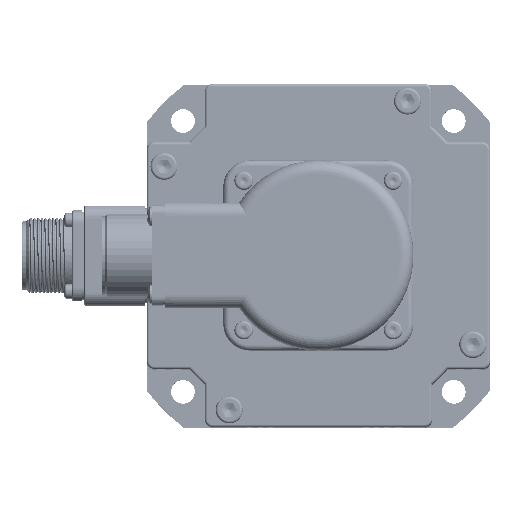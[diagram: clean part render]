
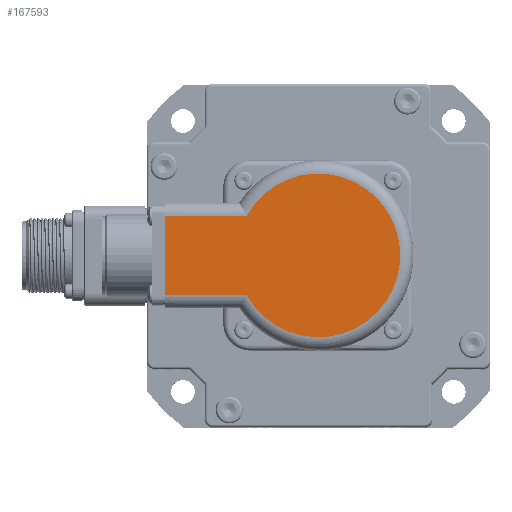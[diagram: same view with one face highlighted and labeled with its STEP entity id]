
A CAD part, top view. The second image highlights one B-rep face of the part: STEP entity #167593.
In plain terms, the highlighted planar face has unit normal (0, 0, 1) as drawn and (1, 0, 0) by its records, which use the part's own axes.
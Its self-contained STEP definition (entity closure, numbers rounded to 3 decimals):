
#165038=DIRECTION('',(0.,1.,0.));
#165039=VECTOR('',#165038,30.871);
#165040=CARTESIAN_POINT('',(43.,27.129,15.));
#165041=LINE('',#165040,#165039);
#165042=DIRECTION('',(0.,0.,-1.));
#165043=VECTOR('',#165042,30.);
#165044=CARTESIAN_POINT('',(43.,58.,15.));
#165045=LINE('',#165044,#165043);
#165046=DIRECTION('',(0.,-1.,0.));
#165047=VECTOR('',#165046,30.871);
#165048=CARTESIAN_POINT('',(43.,58.,-15.));
#165049=LINE('',#165048,#165047);
#165420=CARTESIAN_POINT('',(43.,0.,0.));
#165421=DIRECTION('',(1.,0.,0.));
#165422=DIRECTION('',(0.,0.875,0.484));
#165423=AXIS2_PLACEMENT_3D('',#165420,#165421,#165422);
#166715=CARTESIAN_POINT('',(43.,58.,15.));
#166717=VERTEX_POINT('',#166715);
#166718=CARTESIAN_POINT('',(43.,27.129,15.));
#166719=VERTEX_POINT('',#166718);
#166722=CARTESIAN_POINT('',(43.,58.,-15.));
#166723=CARTESIAN_POINT('',(43.,27.129,-15.));
#166724=VERTEX_POINT('',#166722);
#166725=VERTEX_POINT('',#166723);
#167580=CARTESIAN_POINT('',(43.,0.,0.));
#167581=DIRECTION('',(1.,0.,0.));
#167582=DIRECTION('',(0.,-1.,0.));
#167583=AXIS2_PLACEMENT_3D('',#167580,#167581,#167582);
#167584=PLANE('',#167583);
#167585=ORIENTED_EDGE('',*,*,#167571,.T.);
#167586=ORIENTED_EDGE('',*,*,#167518,.T.);
#167588=ORIENTED_EDGE('',*,*,#167587,.T.);
#167590=ORIENTED_EDGE('',*,*,#167589,.F.);
#167591=EDGE_LOOP('',(#167585,#167586,#167588,#167590));
#167592=FACE_OUTER_BOUND('',#167591,.F.);
#167593=ADVANCED_FACE('',(#167592),#167584,.T.);
#165424=CIRCLE('',#165423,31.);
#167518=EDGE_CURVE('',#166717,#166724,#165045,.T.);
#167571=EDGE_CURVE('',#166719,#166717,#165041,.T.);
#167587=EDGE_CURVE('',#166724,#166725,#165049,.T.);
#167589=EDGE_CURVE('',#166719,#166725,#165424,.T.);
